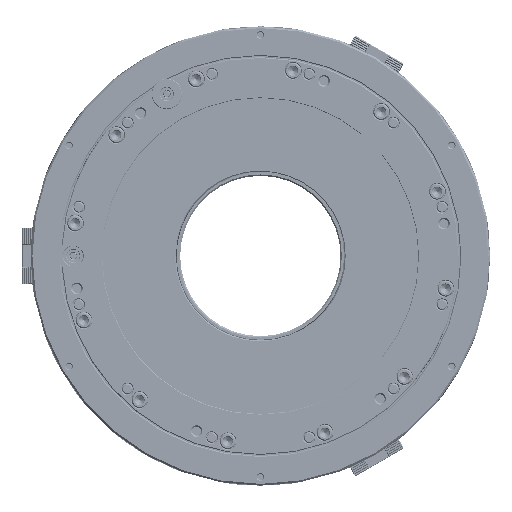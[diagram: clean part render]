
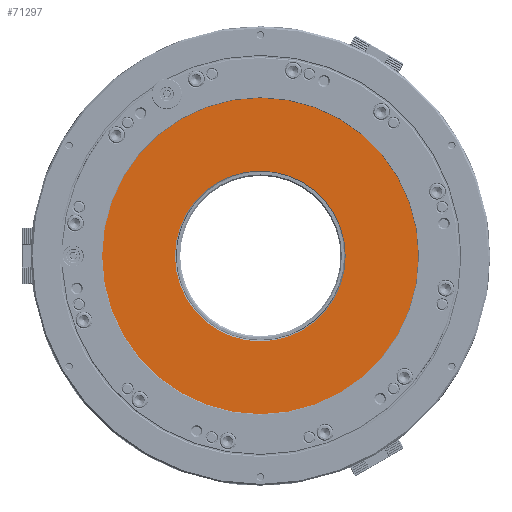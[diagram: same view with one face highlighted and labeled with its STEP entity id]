
A CAD part, left-side view. The second image highlights one B-rep face of the part: STEP entity #71297.
In plain terms, the highlighted planar face has unit normal (-1, 0, 0).
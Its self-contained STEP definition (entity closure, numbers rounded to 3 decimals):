
#710 = CIRCLE ( 'NONE', #241458, 182.5 ) ;
#11120 = DIRECTION ( 'NONE',  ( 1., 0., 0. ) ) ;
#27926 = DIRECTION ( 'NONE',  ( 1., 0., 0. ) ) ;
#46377 = DIRECTION ( 'NONE',  ( 1., 0., 0. ) ) ;
#53291 = CARTESIAN_POINT ( 'NONE',  ( -17., 0., 182.5 ) ) ;
#55566 = DIRECTION ( 'NONE',  ( 0., 0., 1. ) ) ;
#71297 = ADVANCED_FACE ( 'NONE', ( #140413, #237453 ), #75798, .T. ) ;
#74008 = DIRECTION ( 'NONE',  ( 1., 0., 0. ) ) ;
#75798 = PLANE ( 'NONE',  #118341 ) ;
#79620 = EDGE_LOOP ( 'NONE', ( #230130, #197262 ) ) ;
#82819 = CARTESIAN_POINT ( 'NONE',  ( -17., 0., 98.5 ) ) ;
#84137 = DIRECTION ( 'NONE',  ( 0., 0., -1. ) ) ;
#84837 = EDGE_CURVE ( 'NONE', #219684, #168513, #125780, .T. ) ;
#88219 = CIRCLE ( 'NONE', #122636, 98.5 ) ;
#99986 = CARTESIAN_POINT ( 'NONE',  ( -17., 182.5, 0. ) ) ;
#111365 = DIRECTION ( 'NONE',  ( 0., 0., -1. ) ) ;
#118341 = AXIS2_PLACEMENT_3D ( 'NONE', #99986, #157962, #55566 ) ;
#122636 = AXIS2_PLACEMENT_3D ( 'NONE', #138621, #74008, #141297 ) ;
#125186 = ORIENTED_EDGE ( 'NONE', *, *, #84837, .T. ) ;
#125780 = CIRCLE ( 'NONE', #155921, 98.5 ) ;
#133682 = DIRECTION ( 'NONE',  ( 0., 0., -1. ) ) ;
#135541 = CARTESIAN_POINT ( 'NONE',  ( -17., 0., 0. ) ) ;
#138621 = CARTESIAN_POINT ( 'NONE',  ( -17., 0., 0. ) ) ;
#140413 = FACE_BOUND ( 'NONE', #225558, .T. ) ;
#141297 = DIRECTION ( 'NONE',  ( 0., 0., -1. ) ) ;
#152699 = EDGE_CURVE ( 'NONE', #231550, #155758, #710, .T. ) ;
#155758 = VERTEX_POINT ( 'NONE', #53291 ) ;
#155921 = AXIS2_PLACEMENT_3D ( 'NONE', #187887, #46377, #84137 ) ;
#157285 = ORIENTED_EDGE ( 'NONE', *, *, #192223, .T. ) ;
#157962 = DIRECTION ( 'NONE',  ( -1., 0., 0. ) ) ;
#158737 = AXIS2_PLACEMENT_3D ( 'NONE', #135541, #27926, #111365 ) ;
#168513 = VERTEX_POINT ( 'NONE', #174568 ) ;
#174568 = CARTESIAN_POINT ( 'NONE',  ( -17., 0., -98.5 ) ) ;
#178999 = CARTESIAN_POINT ( 'NONE',  ( -17., 0., -182.5 ) ) ;
#187887 = CARTESIAN_POINT ( 'NONE',  ( -17., 0., 0. ) ) ;
#192223 = EDGE_CURVE ( 'NONE', #168513, #219684, #88219, .T. ) ;
#197262 = ORIENTED_EDGE ( 'NONE', *, *, #244268, .F. ) ;
#219684 = VERTEX_POINT ( 'NONE', #82819 ) ;
#225558 = EDGE_LOOP ( 'NONE', ( #125186, #157285 ) ) ;
#230130 = ORIENTED_EDGE ( 'NONE', *, *, #152699, .F. ) ;
#231550 = VERTEX_POINT ( 'NONE', #178999 ) ;
#237453 = FACE_OUTER_BOUND ( 'NONE', #79620, .T. ) ;
#240030 = CARTESIAN_POINT ( 'NONE',  ( -17., 0., 0. ) ) ;
#241458 = AXIS2_PLACEMENT_3D ( 'NONE', #240030, #11120, #133682 ) ;
#244268 = EDGE_CURVE ( 'NONE', #155758, #231550, #257757, .T. ) ;
#257757 = CIRCLE ( 'NONE', #158737, 182.5 ) ;
